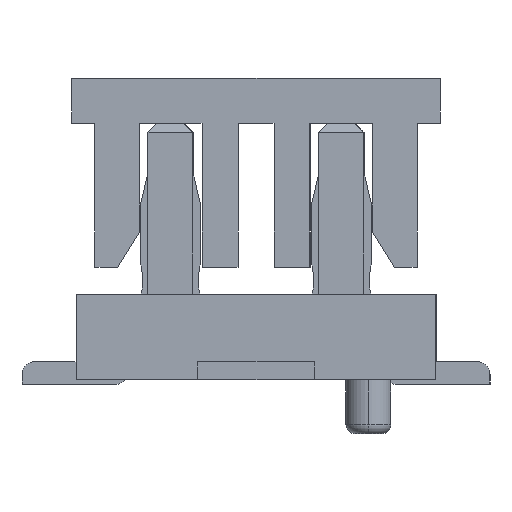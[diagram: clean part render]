
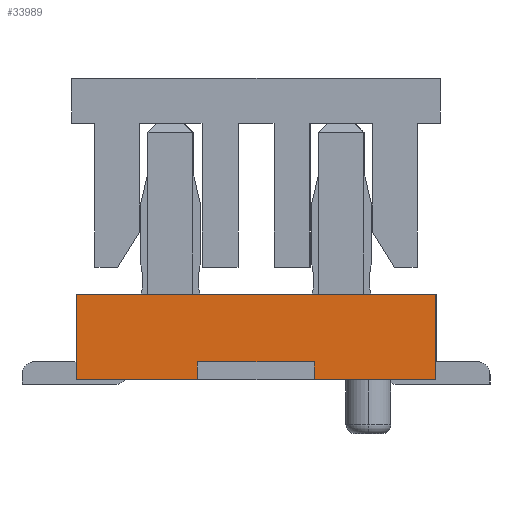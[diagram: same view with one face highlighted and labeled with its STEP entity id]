
A CAD part, left-side view. The second image highlights one B-rep face of the part: STEP entity #33989.
In plain terms, the highlighted planar face has unit normal (-1, 0, 0).
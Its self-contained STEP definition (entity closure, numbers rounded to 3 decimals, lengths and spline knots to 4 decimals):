
#4176 = CARTESIAN_POINT ( 'NONE',  ( -4.15, 0., 0.2 ) ) ;
#7288 = EDGE_CURVE ( 'NONE', #25610, #129231, #54268, .T. ) ;
#9778 = CARTESIAN_POINT ( 'NONE',  ( -4.15, 0.65, 0.1 ) ) ;
#10879 = AXIS2_PLACEMENT_3D ( 'NONE', #62360, #50668, #61655 ) ;
#13451 = EDGE_CURVE ( 'NONE', #74540, #25610, #138331, .T. ) ;
#15238 = EDGE_CURVE ( 'NONE', #70263, #74540, #35616, .T. ) ;
#15813 = LINE ( 'NONE', #105660, #119097 ) ;
#16977 = ORIENTED_EDGE ( 'NONE', *, *, #138275, .F. ) ;
#22249 = EDGE_CURVE ( 'NONE', #84475, #70263, #128687, .T. ) ;
#22830 = LINE ( 'NONE', #122920, #24239 ) ;
#23227 = DIRECTION ( 'NONE',  ( 0., 0., -1. ) ) ;
#24239 = VECTOR ( 'NONE', #56433, 1000. ) ;
#25610 = VERTEX_POINT ( 'NONE', #33307 ) ;
#28248 = LINE ( 'NONE', #4176, #33183 ) ;
#28580 = DIRECTION ( 'NONE',  ( 0., -1., 0. ) ) ;
#29302 = CARTESIAN_POINT ( 'NONE',  ( -4.15, 0., 0.95 ) ) ;
#29780 = EDGE_CURVE ( 'NONE', #71738, #84475, #22830, .T. ) ;
#33183 = VECTOR ( 'NONE', #93313, 1000. ) ;
#33307 = CARTESIAN_POINT ( 'NONE',  ( -4.15, -0.65, 0. ) ) ;
#33989 = ADVANCED_FACE ( 'NONE', ( #39697 ), #107656, .F. ) ;
#34896 = VECTOR ( 'NONE', #96751, 1000. ) ;
#35616 = LINE ( 'NONE', #56837, #114475 ) ;
#39614 = EDGE_CURVE ( 'NONE', #43750, #71738, #15813, .T. ) ;
#39697 = FACE_OUTER_BOUND ( 'NONE', #86534, .T. ) ;
#43750 = VERTEX_POINT ( 'NONE', #143079 ) ;
#50668 = DIRECTION ( 'NONE',  ( 1., 0., 0. ) ) ;
#52152 = LINE ( 'NONE', #9778, #34896 ) ;
#54268 = LINE ( 'NONE', #137433, #135632 ) ;
#56226 = VECTOR ( 'NONE', #28580, 1000. ) ;
#56433 = DIRECTION ( 'NONE',  ( 0., 0., 1. ) ) ;
#56837 = CARTESIAN_POINT ( 'NONE',  ( -4.15, -2., 0.475 ) ) ;
#57478 = CARTESIAN_POINT ( 'NONE',  ( -4.15, -0.65, 0.2 ) ) ;
#58215 = DIRECTION ( 'NONE',  ( 0., 1., 0. ) ) ;
#59928 = ORIENTED_EDGE ( 'NONE', *, *, #39614, .F. ) ;
#61655 = DIRECTION ( 'NONE',  ( 0., 1., 0. ) ) ;
#62360 = CARTESIAN_POINT ( 'NONE',  ( -4.15, 0., 0. ) ) ;
#67420 = CARTESIAN_POINT ( 'NONE',  ( -4.15, 2., 0. ) ) ;
#70235 = DIRECTION ( 'NONE',  ( 0., 0., 1. ) ) ;
#70263 = VERTEX_POINT ( 'NONE', #132610 ) ;
#71505 = ORIENTED_EDGE ( 'NONE', *, *, #113319, .T. ) ;
#71738 = VERTEX_POINT ( 'NONE', #67420 ) ;
#74540 = VERTEX_POINT ( 'NONE', #118772 ) ;
#79955 = CARTESIAN_POINT ( 'NONE',  ( -4.15, -1.325, 0. ) ) ;
#84475 = VERTEX_POINT ( 'NONE', #138127 ) ;
#86534 = EDGE_LOOP ( 'NONE', ( #71505, #16977, #113130, #105020, #97292, #90439, #134101, #59928 ) ) ;
#86869 = VERTEX_POINT ( 'NONE', #103189 ) ;
#90439 = ORIENTED_EDGE ( 'NONE', *, *, #22249, .F. ) ;
#93313 = DIRECTION ( 'NONE',  ( 0., 1., 0. ) ) ;
#96751 = DIRECTION ( 'NONE',  ( 0., 0., 1. ) ) ;
#97292 = ORIENTED_EDGE ( 'NONE', *, *, #15238, .F. ) ;
#103189 = CARTESIAN_POINT ( 'NONE',  ( -4.15, 0.65, 0.2 ) ) ;
#105020 = ORIENTED_EDGE ( 'NONE', *, *, #13451, .F. ) ;
#105660 = CARTESIAN_POINT ( 'NONE',  ( -4.15, 1.325, 0. ) ) ;
#107656 = PLANE ( 'NONE',  #10879 ) ;
#113130 = ORIENTED_EDGE ( 'NONE', *, *, #7288, .F. ) ;
#113319 = EDGE_CURVE ( 'NONE', #43750, #86869, #52152, .T. ) ;
#114475 = VECTOR ( 'NONE', #23227, 1000. ) ;
#116408 = DIRECTION ( 'NONE',  ( 0., 1., 0. ) ) ;
#118751 = VECTOR ( 'NONE', #116408, 1000. ) ;
#118772 = CARTESIAN_POINT ( 'NONE',  ( -4.15, -2., 0. ) ) ;
#119097 = VECTOR ( 'NONE', #58215, 1000. ) ;
#122920 = CARTESIAN_POINT ( 'NONE',  ( -4.15, 2., 0.475 ) ) ;
#128687 = LINE ( 'NONE', #29302, #56226 ) ;
#129231 = VERTEX_POINT ( 'NONE', #57478 ) ;
#132610 = CARTESIAN_POINT ( 'NONE',  ( -4.15, -2., 0.95 ) ) ;
#134101 = ORIENTED_EDGE ( 'NONE', *, *, #29780, .F. ) ;
#135632 = VECTOR ( 'NONE', #70235, 1000. ) ;
#137433 = CARTESIAN_POINT ( 'NONE',  ( -4.15, -0.65, 0.1 ) ) ;
#138127 = CARTESIAN_POINT ( 'NONE',  ( -4.15, 2., 0.95 ) ) ;
#138275 = EDGE_CURVE ( 'NONE', #129231, #86869, #28248, .T. ) ;
#138331 = LINE ( 'NONE', #79955, #118751 ) ;
#143079 = CARTESIAN_POINT ( 'NONE',  ( -4.15, 0.65, 0. ) ) ;
